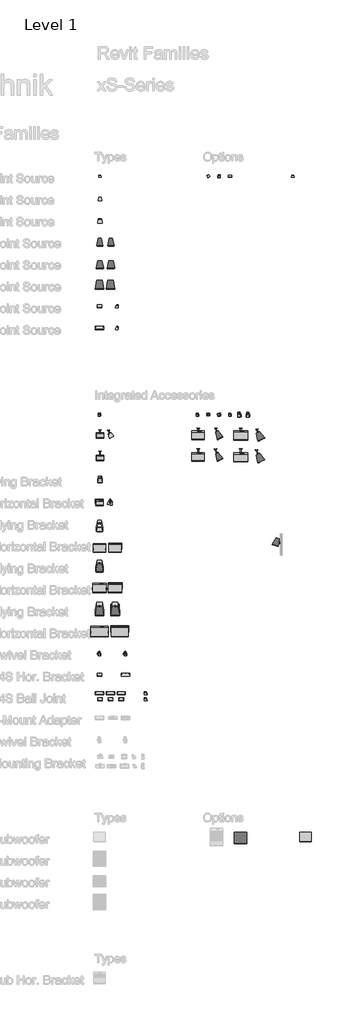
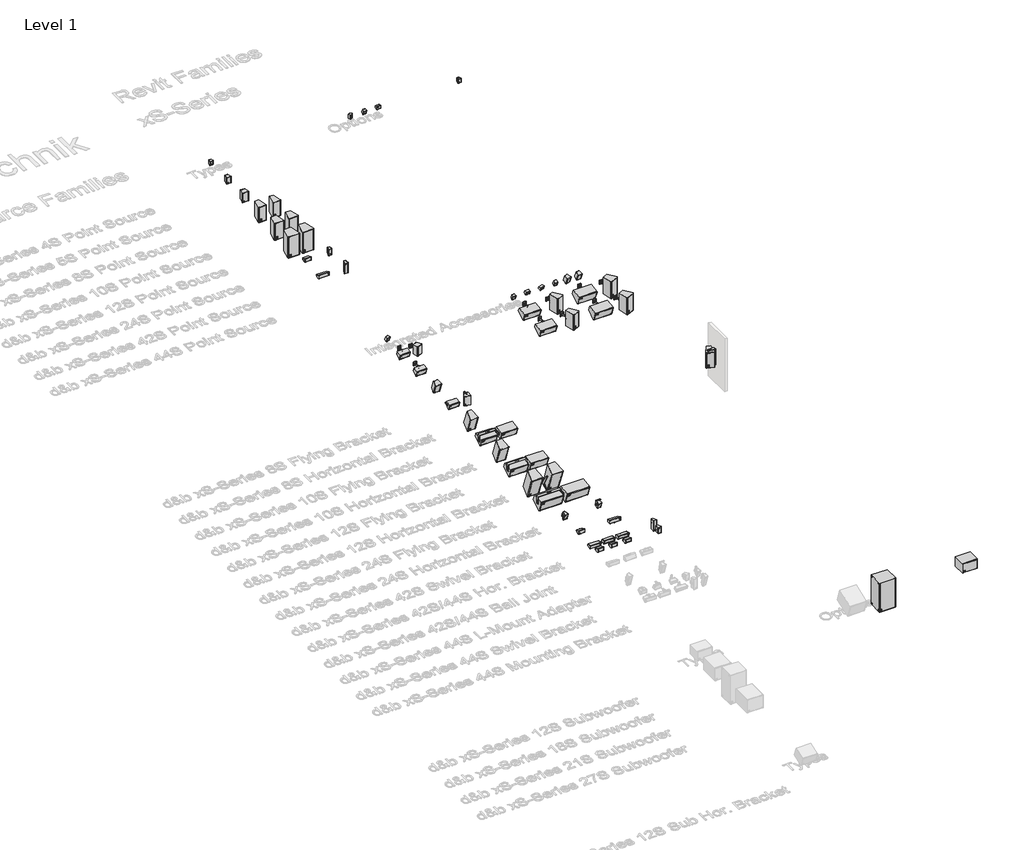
# One storey, part 2 of 55: 88 proxies.
"""IFC4 building model written with IfcOpenShell, lengths in millimetres."""

from ifc_helpers import new_model, si_unit, origin, place, context, project, spatial, transform, mapped, element, save
from components import proxy_10s_97c97104, proxy_12s_5242e5fb, proxy_24s_2d7f25b9, communication_devices_b0b455ff, communication_devices_60afc5a3, communication_devices_90d3ba4c, proxy_10s_79aa2483, proxy_10s_f54c0f71, proxy_10s_61797318, proxy_10s_125b0857, proxy_10s_horizontal_bracket_cd0d0b8b, proxy_10s_horizontal_bracket_ba3221e5, proxy_10s_horizontal_bracket_22db2dfa, proxy_12s_62eb7dd9, proxy_12s_bca86ed1, proxy_12s_57577739, proxy_12s_horizontal_bracket_cdcb445a, proxy_12s_horizontal_bracket_10b1cf9d, proxy_12s_sub_2a9edee9, proxy_21s_sub_79dd9c0d, proxy_24s_20e2b4ed, proxy_24s_46e50888, proxy_24s_horizontal_bracket_f759a5f4, proxy_24s_horizontal_bracket_bb8fb8dd, proxy_42s_4e967d7d, proxy_42s_64e661f3, proxy_42s_4a7ad22a, proxy_42s_0bac77b2, proxy_42s_swivel_bracket_58c8d276, proxy_42s_swivel_bracket_c39d419f, proxy_44s_32ae6d55, proxy_44s_43ee14fb, proxy_44s_2f7ddd4e, proxy_44s_975088ee, proxy_4s_3c42d015, proxy_4s_407254ed, proxy_4s_222f0351, proxy_4s_959aaee8, proxy_4s_9db8a935, proxy_4s_93626263, proxy_4s_2210255e, proxy_4s_803dc05e, proxy_5s_5bde0faa, proxy_5s_1bd1272a, proxy_5s_22a98614, proxy_8s_ff0c01f1, proxy_8s_2740bf52, proxy_8s_5a40f470, proxy_8s_6c60cdf4, proxy_8s_a2fef5f0, proxy_8s_horizontal_bracket_b8a0a3da, proxy_8s_horizontal_bracket_507ac9af, wall_mount_l_aa618b3f, wall_mount_l_5b5687d1, wall_mount_m_60f821db, wall_mount_m_07799ee1

model = new_model("IFC4")

# Units and contexts
model_context = context("Model", 3, world=origin())
ifc_project = project(units=[si_unit("LENGTHUNIT", "METRE", prefix="MILLI")], contexts=[model_context])

# Site, building, storey
site = spatial("IfcSite", under=ifc_project)
building = spatial("IfcBuilding", under=site)
storey = spatial("IfcBuildingStorey", under=building, Name="Level 1", Elevation=0.0)

# Proxies
placement = place(None, origin())
proxy_10s_shape = proxy_10s_97c97104(model_context)
element("IfcBuildingElementProxy", 1, Name="d&b xS-Series 10S Point Source : 10S-D", ObjectType="d&b xS-Series 10S Point Source : 10S-D", at=placement, inside=storey, context=model_context, shape_type="MappedRepresentation", body=[
    mapped(proxy_10s_shape, transform((-10731.9323727, 13546.5012301, 1000.0), x_axis=(1.0, 0.0, 0.0), y_axis=(0.0, 1.0, 0.0), z_axis=(0.0, 0.0, 1.0))),
])
proxy_12s_shape = proxy_12s_5242e5fb(model_context)
element("IfcBuildingElementProxy", 2, Name="d&b xS-Series 12S Point Source : 12S-D", ObjectType="d&b xS-Series 12S Point Source : 12S-D", at=placement, inside=storey, context=model_context, shape_type="MappedRepresentation", body=[
    mapped(proxy_12s_shape, transform((-10731.9323727, 12564.0992973, 1000.0), x_axis=(1.0, 0.0, 0.0), y_axis=(0.0, 1.0, 0.0), z_axis=(0.0, 0.0, 1.0))),
])
proxy_24s_shape = proxy_24s_2d7f25b9(model_context)
element("IfcBuildingElementProxy", 3, Name="d&b xS-Series 24S Point Source : 24S-D", ObjectType="d&b xS-Series 24S Point Source : 24S-D", at=placement, inside=storey, context=model_context, shape_type="MappedRepresentation", body=[
    mapped(proxy_24s_shape, transform((-10751.9323727, 11646.5012301, 1000.0), x_axis=(1.0, 0.0, 0.0), y_axis=(0.0, 1.0, 0.0), z_axis=(0.0, 0.0, 1.0))),
])
communication_devices_shape = communication_devices_b0b455ff(model_context)
element("IfcBuildingElementProxy", 4, Name="d&b xS-Series 24S Flying Bracket : 24S Flying Bracket", ObjectType="d&b xS-Series 24S Flying Bracket : 24S Flying Bracket", at=placement, inside=storey, context=model_context, shape_type="MappedRepresentation", body=[
    mapped(communication_devices_shape, transform((-10541.6434304, -3327.091255, 1000.0), x_axis=(0.0, -1.0000000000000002, 0.0), y_axis=(1.0000000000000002, 0.0, 0.0), z_axis=(0.0, 0.0, 1.0))),
])
communication_devices_2_shape = communication_devices_60afc5a3(model_context)
element("IfcBuildingElementProxy", 5, Name="d&b xS-Series 42S l 44S Horizontal Bracket : 42S l 44S Horizontal Bracket", ObjectType="d&b xS-Series 42S l 44S Horizontal Bracket : 42S l 44S Horizontal Bracket", at=placement, inside=storey, context=model_context, shape_type="MappedRepresentation", body=[
    mapped(communication_devices_2_shape, transform((-11261.6434304, -6292.2865951, 975.3410166), x_axis=(1.0, 0.0, 0.0), y_axis=(0.0, 0.17364817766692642, 0.9848077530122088), z_axis=(0.0, -0.9848077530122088, 0.17364817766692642))),
])
communication_devices_3_shape = communication_devices_90d3ba4c(model_context)
element("IfcBuildingElementProxy", 6, Name="d&b xS-Series 42S l 44S Horizontal Bracket : 42S l 44S Horizontal Bracket", ObjectType="d&b xS-Series 42S l 44S Horizontal Bracket : 42S l 44S Horizontal Bracket", at=placement, inside=storey, context=model_context, shape_type="MappedRepresentation", body=[
    mapped(communication_devices_3_shape, transform((-10061.6434304, -6291.7705506, 975.2500241), x_axis=(-1.0, 0.0, 0.0), y_axis=(0.0, -0.17364817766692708, -0.9848077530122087), z_axis=(0.0, -0.9848077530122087, 0.17364817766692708))),
])
element("IfcBuildingElementProxy", 7, Name="d&b xS-Series 10S Point Source : 10S", ObjectType="d&b xS-Series 10S Point Source : 10S", at=placement, inside=storey, context=model_context, shape_type="MappedRepresentation", body=[
    mapped(proxy_10s_shape, transform((-11241.6434304, 13546.5012301, 1000.0), x_axis=(1.0, 0.0, 0.0), y_axis=(0.0, 1.0, 0.0), z_axis=(0.0, 0.0, 1.0))),
])
proxy_10s_2_shape = proxy_10s_79aa2483(model_context)
element("IfcBuildingElementProxy", 8, Name="d&b xS-Series 10S Point Source : 10S", ObjectType="d&b xS-Series 10S Point Source : 10S", at=placement, inside=storey, context=model_context, shape_type="MappedRepresentation", body=[
    mapped(proxy_10s_2_shape, transform((-6705.1501038, 3650.1970686, 1000.0), x_axis=(1.0, 0.0, 0.0), y_axis=(0.0, 1.0, 0.0), z_axis=(0.0, 0.0, 1.0))),
])
proxy_10s_3_shape = proxy_10s_f54c0f71(model_context)
element("IfcBuildingElementProxy", 9, Name="d&b xS-Series 10S Point Source : 10S", ObjectType="d&b xS-Series 10S Point Source : 10S", at=placement, inside=storey, context=model_context, shape_type="MappedRepresentation", body=[
    mapped(proxy_10s_3_shape, transform((-5764.1712236, 3650.1970686, 1000.0), x_axis=(1.0, 0.0, 0.0), y_axis=(0.0, 1.0, 0.0), z_axis=(0.0, 0.0, 1.0))),
])
proxy_10s_4_shape = proxy_10s_61797318(model_context)
element("IfcBuildingElementProxy", 10, Name="d&b xS-Series 10S Point Source : 10S", ObjectType="d&b xS-Series 10S Point Source : 10S", at=placement, inside=storey, context=model_context, shape_type="MappedRepresentation", body=[
    mapped(proxy_10s_4_shape, transform((-11261.6434304, 446.5012301, 1000.0), x_axis=(1.0, 0.0, 0.0), y_axis=(0.0, 1.0, 0.0), z_axis=(0.0, 0.0, 1.0))),
])
element("IfcBuildingElementProxy", 11, Name="d&b xS-Series 10S Point Source : 10S", ObjectType="d&b xS-Series 10S Point Source : 10S", at=placement, inside=storey, context=model_context, shape_type="MappedRepresentation", body=[
    mapped(proxy_10s_2_shape, transform((-11261.6434304, -553.4987699, 1000.0), x_axis=(1.0, 0.0, 0.0), y_axis=(0.0, 1.0, 0.0), z_axis=(0.0, 0.0, 1.0))),
])
element("IfcBuildingElementProxy", 12, Name="d&b xS-Series 10S Point Source : 10S", ObjectType="d&b xS-Series 10S Point Source : 10S", at=placement, inside=storey, context=model_context, shape_type="MappedRepresentation", body=[
    mapped(proxy_10s_2_shape, transform((-10541.6434304, -553.4987699, 1000.0), x_axis=(1.0, 0.0, 0.0), y_axis=(0.0, 1.0, 0.0), z_axis=(0.0, 0.0, 1.0))),
])
element("IfcBuildingElementProxy", 13, Name="d&b xS-Series 10S Point Source : 10S", ObjectType="d&b xS-Series 10S Point Source : 10S", at=placement, inside=storey, context=model_context, shape_type="MappedRepresentation", body=[
    mapped(proxy_10s_2_shape, transform((-6705.1501038, 4650.1970686, 1000.0), x_axis=(1.0, 0.0, 0.0), y_axis=(0.0, 1.0, 0.0), z_axis=(0.0, 0.0, 1.0))),
])
element("IfcBuildingElementProxy", 14, Name="d&b xS-Series 10S Point Source : 10S", ObjectType="d&b xS-Series 10S Point Source : 10S", at=placement, inside=storey, context=model_context, shape_type="MappedRepresentation", body=[
    mapped(proxy_10s_3_shape, transform((-5764.1712236, 4650.1970686, 1000.0), x_axis=(1.0, 0.0, 0.0), y_axis=(0.0, 1.0, 0.0), z_axis=(0.0, 0.0, 1.0))),
])
proxy_10s_5_shape = proxy_10s_125b0857(model_context)
element("IfcBuildingElementProxy", 15, Name="d&b xS-Series 10S Point Source : 10S", ObjectType="d&b xS-Series 10S Point Source : 10S", at=placement, inside=storey, context=model_context, shape_type="MappedRepresentation", body=[
    mapped(proxy_10s_5_shape, transform((-3099.2298955, -283.4987699, 1000.0), x_axis=(1.0, 0.0, 0.0), y_axis=(0.0, 1.0, 0.0), z_axis=(0.0, 0.0, 1.0))),
])
proxy_10s_horizontal_bracket_shape = proxy_10s_horizontal_bracket_cd0d0b8b(model_context)
element("IfcBuildingElementProxy", 16, Name="d&b xS-Series 10S Horizontal Bracket : 10S Horizontal Bracket", ObjectType="d&b xS-Series 10S Horizontal Bracket : 10S Horizontal Bracket", at=placement, inside=storey, context=model_context, shape_type="MappedRepresentation", body=[
    mapped(proxy_10s_horizontal_bracket_shape, transform((-3208.2003886, -292.2487699, 1000.0), x_axis=(0.0, 0.0, -1.0), y_axis=(0.0, 1.0, 0.0), z_axis=(1.0, 0.0, 0.0))),
])
proxy_10s_horizontal_bracket_2_shape = proxy_10s_horizontal_bracket_ba3221e5(model_context)
element("IfcBuildingElementProxy", 17, Name="d&b xS-Series 10S Horizontal Bracket : 10S Horizontal Bracket", ObjectType="d&b xS-Series 10S Horizontal Bracket : 10S Horizontal Bracket", at=placement, inside=storey, context=model_context, shape_type="MappedRepresentation", body=[
    mapped(proxy_10s_horizontal_bracket_2_shape, transform((-11261.6434304, -553.4987699, 948.0), x_axis=(1.0, 0.0, 0.0), y_axis=(0.0, 1.0, 0.0), z_axis=(0.0, 0.0, 1.0))),
])
proxy_10s_horizontal_bracket_3_shape = proxy_10s_horizontal_bracket_22db2dfa(model_context)
element("IfcBuildingElementProxy", 18, Name="d&b xS-Series 10S Horizontal Bracket : 10S Horizontal Bracket", ObjectType="d&b xS-Series 10S Horizontal Bracket : 10S Horizontal Bracket", at=placement, inside=storey, context=model_context, shape_type="MappedRepresentation", body=[
    mapped(proxy_10s_horizontal_bracket_3_shape, transform((-10541.6434304, -553.4987699, 1000.0), x_axis=(1.0, 0.0, 0.0), y_axis=(0.0, 1.0, 0.0), z_axis=(0.0, 0.0, 1.0))),
])
element("IfcBuildingElementProxy", 19, Name="d&b xS-Series 12S Point Source : 12S", ObjectType="d&b xS-Series 12S Point Source : 12S", at=placement, inside=storey, context=model_context, shape_type="MappedRepresentation", body=[
    mapped(proxy_12s_shape, transform((-11241.6434304, 12564.0992973, 1000.0), x_axis=(1.0, 0.0, 0.0), y_axis=(0.0, 1.0, 0.0), z_axis=(0.0, 0.0, 1.0))),
])
proxy_12s_2_shape = proxy_12s_62eb7dd9(model_context)
element("IfcBuildingElementProxy", 20, Name="d&b xS-Series 12S Point Source : 12S", ObjectType="d&b xS-Series 12S Point Source : 12S", at=placement, inside=storey, context=model_context, shape_type="MappedRepresentation", body=[
    mapped(proxy_12s_2_shape, transform((-4741.6434304, 4686.5012301, 1000.0), x_axis=(1.0, 0.0, 0.0), y_axis=(0.0, 1.0, 0.0), z_axis=(0.0, 0.0, 1.0))),
])
proxy_12s_3_shape = proxy_12s_bca86ed1(model_context)
element("IfcBuildingElementProxy", 21, Name="d&b xS-Series 12S Point Source : 12S", ObjectType="d&b xS-Series 12S Point Source : 12S", at=placement, inside=storey, context=model_context, shape_type="MappedRepresentation", body=[
    mapped(proxy_12s_3_shape, transform((-3864.1712236, 4650.1970686, 1000.0), x_axis=(1.0, 0.0, 0.0), y_axis=(0.0, 1.0, 0.0), z_axis=(0.0, 0.0, 1.0))),
])
element("IfcBuildingElementProxy", 22, Name="d&b xS-Series 12S Point Source : 12S", ObjectType="d&b xS-Series 12S Point Source : 12S", at=placement, inside=storey, context=model_context, shape_type="MappedRepresentation", body=[
    mapped(proxy_12s_2_shape, transform((-4741.6434304, 3686.5012301, 1000.0), x_axis=(1.0, 0.0, 0.0), y_axis=(0.0, 1.0, 0.0), z_axis=(0.0, 0.0, 1.0))),
])
element("IfcBuildingElementProxy", 23, Name="d&b xS-Series 12S Point Source : 12S", ObjectType="d&b xS-Series 12S Point Source : 12S", at=placement, inside=storey, context=model_context, shape_type="MappedRepresentation", body=[
    mapped(proxy_12s_3_shape, transform((-3864.1712236, 3650.1970686, 1000.0), x_axis=(1.0, 0.0, 0.0), y_axis=(0.0, 1.0, 0.0), z_axis=(0.0, 0.0, 1.0))),
])
element("IfcBuildingElementProxy", 24, Name="d&b xS-Series 12S Point Source : 12S", ObjectType="d&b xS-Series 12S Point Source : 12S", at=placement, inside=storey, context=model_context, shape_type="MappedRepresentation", body=[
    mapped(proxy_12s_2_shape, transform((-11261.6434304, -2353.4987699, 1000.0), x_axis=(1.0, 0.0, 0.0), y_axis=(0.0, 1.0, 0.0), z_axis=(0.0, 0.0, 1.0))),
])
element("IfcBuildingElementProxy", 25, Name="d&b xS-Series 12S Point Source : 12S", ObjectType="d&b xS-Series 12S Point Source : 12S", at=placement, inside=storey, context=model_context, shape_type="MappedRepresentation", body=[
    mapped(proxy_12s_2_shape, transform((-10541.6434304, -2353.4987699, 1000.0), x_axis=(1.0, 0.0, 0.0), y_axis=(0.0, 1.0, 0.0), z_axis=(0.0, 0.0, 1.0))),
])
proxy_12s_4_shape = proxy_12s_57577739(model_context)
element("IfcBuildingElementProxy", 26, Name="d&b xS-Series 12S Point Source : 12S", ObjectType="d&b xS-Series 12S Point Source : 12S", at=placement, inside=storey, context=model_context, shape_type="MappedRepresentation", body=[
    mapped(proxy_12s_4_shape, transform((-11261.6434304, -1353.4987699, 1000.0), x_axis=(1.0, 0.0, 0.0), y_axis=(0.0, 1.0, 0.0), z_axis=(0.0, 0.0, 1.0))),
])
proxy_12s_horizontal_bracket_shape = proxy_12s_horizontal_bracket_cdcb445a(model_context)
element("IfcBuildingElementProxy", 27, Name="d&b xS-Series 12S Horizontal Bracket : 12S Horizontal Bracket", ObjectType="d&b xS-Series 12S Horizontal Bracket : 12S Horizontal Bracket", at=placement, inside=storey, context=model_context, shape_type="MappedRepresentation", body=[
    mapped(proxy_12s_horizontal_bracket_shape, transform((-11261.6434304, -2376.3112699, 948.046875), x_axis=(1.0, 0.0, 0.0), y_axis=(0.0, 1.0, 0.0), z_axis=(0.0, 0.0, 1.0))),
])
proxy_12s_horizontal_bracket_2_shape = proxy_12s_horizontal_bracket_10b1cf9d(model_context)
element("IfcBuildingElementProxy", 28, Name="d&b xS-Series 12S Horizontal Bracket : 12S Horizontal Bracket", ObjectType="d&b xS-Series 12S Horizontal Bracket : 12S Horizontal Bracket", at=placement, inside=storey, context=model_context, shape_type="MappedRepresentation", body=[
    mapped(proxy_12s_horizontal_bracket_2_shape, transform((-10541.6434304, -2376.1550199, 1000.0), x_axis=(1.0, 0.0, 0.0), y_axis=(0.0, 1.0, 0.0), z_axis=(0.0, 0.0, 1.0))),
])
proxy_12s_sub_shape = proxy_12s_sub_2a9edee9(model_context)
element("IfcBuildingElementProxy", 29, Name="d&b xS-Series 12S Subwoofer : 12S Sub", ObjectType="d&b xS-Series 12S Subwoofer : 12S Sub", at=placement, inside=storey, context=model_context, shape_type="MappedRepresentation", body=[
    mapped(proxy_12s_sub_shape, transform((-1754.4666248, -13853.4987699, 1000.0), x_axis=(1.0, 0.0, 0.0), y_axis=(0.0, 1.0, 0.0), z_axis=(0.0, 0.0, 1.0))),
])
proxy_21s_sub_shape = proxy_21s_sub_79dd9c0d(model_context)
element("IfcBuildingElementProxy", 30, Name="d&b xS-Series 21S Subwoofer : 21S Sub", ObjectType="d&b xS-Series 21S Subwoofer : 21S Sub", at=placement, inside=storey, context=model_context, shape_type="MappedRepresentation", body=[
    mapped(proxy_21s_sub_shape, transform((-4754.4666248, -13853.4987699, 1000.0), x_axis=(1.0, 0.0, 0.0), y_axis=(0.0, 1.0, 0.0), z_axis=(0.0, 0.0, 1.0))),
])
element("IfcBuildingElementProxy", 31, Name="d&b xS-Series 24S Point Source : 24S", ObjectType="d&b xS-Series 24S Point Source : 24S", at=placement, inside=storey, context=model_context, shape_type="MappedRepresentation", body=[
    mapped(proxy_24s_shape, transform((-11261.6434304, 11646.5012301, 1000.0), x_axis=(1.0, 0.0, 0.0), y_axis=(0.0, 1.0, 0.0), z_axis=(0.0, 0.0, 1.0))),
])
proxy_24s_2_shape = proxy_24s_20e2b4ed(model_context)
element("IfcBuildingElementProxy", 32, Name="d&b xS-Series 24S Point Source : 24S", ObjectType="d&b xS-Series 24S Point Source : 24S", at=placement, inside=storey, context=model_context, shape_type="MappedRepresentation", body=[
    mapped(proxy_24s_2_shape, transform((-11261.6434304, -3353.4987699, 1000.0), x_axis=(1.0, 0.0, 0.0), y_axis=(0.0, 1.0, 0.0), z_axis=(0.0, 0.0, 1.0))),
])
element("IfcBuildingElementProxy", 33, Name="d&b xS-Series 24S Point Source : 24S", ObjectType="d&b xS-Series 24S Point Source : 24S", at=placement, inside=storey, context=model_context, shape_type="MappedRepresentation", body=[
    mapped(proxy_24s_2_shape, transform((-10541.6434304, -3353.4987699, 1000.0), x_axis=(1.0, 0.0, 0.0), y_axis=(0.0, 1.0, 0.0), z_axis=(0.0, 0.0, 1.0))),
])
proxy_24s_3_shape = proxy_24s_46e50888(model_context)
element("IfcBuildingElementProxy", 34, Name="d&b xS-Series 24S Point Source : 24S", ObjectType="d&b xS-Series 24S Point Source : 24S", at=placement, inside=storey, context=model_context, shape_type="MappedRepresentation", body=[
    mapped(proxy_24s_3_shape, transform((-11261.6434304, -4353.4987699, 1000.0), x_axis=(1.0, 0.0, 0.0), y_axis=(0.0, 1.0, 0.0), z_axis=(0.0, 0.0, 1.0))),
])
element("IfcBuildingElementProxy", 35, Name="d&b xS-Series 24S Point Source : 24S", ObjectType="d&b xS-Series 24S Point Source : 24S", at=placement, inside=storey, context=model_context, shape_type="MappedRepresentation", body=[
    mapped(proxy_24s_3_shape, transform((-10324.1459106, -4353.4987699, 1000.0), x_axis=(1.0, 0.0, 0.0), y_axis=(0.0, 1.0, 0.0), z_axis=(0.0, 0.0, 1.0))),
])
proxy_24s_horizontal_bracket_shape = proxy_24s_horizontal_bracket_f759a5f4(model_context)
element("IfcBuildingElementProxy", 36, Name="d&b xS-Series 24S Horizontal Bracket : 24S Horizontal Bracket", ObjectType="d&b xS-Series 24S Horizontal Bracket : 24S Horizontal Bracket", at=placement, inside=storey, context=model_context, shape_type="MappedRepresentation", body=[
    mapped(proxy_24s_horizontal_bracket_shape, transform((-11261.6434304, -4376.3112699, 948.046875), x_axis=(1.0, 0.0, 0.0), y_axis=(0.0, 1.0, 0.0), z_axis=(0.0, 0.0, 1.0))),
])
proxy_24s_horizontal_bracket_2_shape = proxy_24s_horizontal_bracket_bb8fb8dd(model_context)
element("IfcBuildingElementProxy", 37, Name="d&b xS-Series 24S Horizontal Bracket : 24S Horizontal Bracket", ObjectType="d&b xS-Series 24S Horizontal Bracket : 24S Horizontal Bracket", at=placement, inside=storey, context=model_context, shape_type="MappedRepresentation", body=[
    mapped(proxy_24s_horizontal_bracket_2_shape, transform((-10324.1459106, -4376.3112699, 1000.0), x_axis=(1.0, 0.0, 0.0), y_axis=(0.0, 1.0, 0.0), z_axis=(0.0, 0.0, 1.0))),
])
proxy_42s_shape = proxy_42s_4e967d7d(model_context)
element("IfcBuildingElementProxy", 38, Name="d&b xS-Series 42S Point Source : 42S", ObjectType="d&b xS-Series 42S Point Source : 42S", at=placement, inside=storey, context=model_context, shape_type="MappedRepresentation", body=[
    mapped(proxy_42s_shape, transform((-11261.6434304, 10646.5012301, 1000.0), x_axis=(1.0, 0.0, 0.0), y_axis=(0.0, 1.0, 0.0), z_axis=(0.0, 0.0, 1.0))),
])
element("IfcBuildingElementProxy", 39, Name="d&b xS-Series 42S Point Source : 42S", ObjectType="d&b xS-Series 42S Point Source : 42S", at=placement, inside=storey, context=model_context, shape_type="MappedRepresentation", body=[
    mapped(proxy_42s_shape, transform((-10254.7485636, -7495.7790499, 1000.0), x_axis=(1.0, 0.0, 0.0), y_axis=(0.0, 1.0, 0.0), z_axis=(0.0, 0.0, 1.0))),
])
proxy_42s_2_shape = proxy_42s_64e661f3(model_context)
element("IfcBuildingElementProxy", 40, Name="d&b xS-Series 42S Point Source : 42S", ObjectType="d&b xS-Series 42S Point Source : 42S", at=placement, inside=storey, context=model_context, shape_type="MappedRepresentation", body=[
    mapped(proxy_42s_2_shape, transform((-11261.6434304, -5385.9467881, 1000.0), x_axis=(1.0, 0.0, 0.0), y_axis=(0.0, 1.0, 0.0), z_axis=(0.0, 0.0, 1.0))),
])
element("IfcBuildingElementProxy", 41, Name="d&b xS-Series 42S Point Source : 42S", ObjectType="d&b xS-Series 42S Point Source : 42S", at=placement, inside=storey, context=model_context, shape_type="MappedRepresentation", body=[
    mapped(proxy_42s_2_shape, transform((-10061.6434304, -5385.9467881, 1000.0), x_axis=(1.0, 0.0, 0.0), y_axis=(0.0, 1.0, 0.0), z_axis=(0.0, 0.0, 1.0))),
])
element("IfcBuildingElementProxy", 42, Name="d&b xS-Series 42S Point Source : 42S", ObjectType="d&b xS-Series 42S Point Source : 42S", at=placement, inside=storey, context=model_context, shape_type="MappedRepresentation", body=[
    mapped(proxy_42s_shape, transform((-11261.6434304, -6360.8497124, 1000.0), x_axis=(1.0, 0.0, 0.0), y_axis=(0.0, 1.0, 0.0), z_axis=(0.0, 0.0, 1.0))),
])
proxy_42s_3_shape = proxy_42s_4a7ad22a(model_context)
element("IfcBuildingElementProxy", 43, Name="d&b xS-Series 42S Point Source : 42S", ObjectType="d&b xS-Series 42S Point Source : 42S", at=placement, inside=storey, context=model_context, shape_type="MappedRepresentation", body=[
    mapped(proxy_42s_3_shape, transform((-10461.6434304, 10646.5012301, 1000.0), x_axis=(1.0, 0.0, 0.0), y_axis=(0.0, 1.0, 0.0), z_axis=(0.0, 0.0, 1.0))),
])
element("IfcBuildingElementProxy", 44, Name="d&b xS-Series 42S Point Source : 42S", ObjectType="d&b xS-Series 42S Point Source : 42S", at=placement, inside=storey, context=model_context, shape_type="MappedRepresentation", body=[
    mapped(proxy_42s_shape, transform((-11242.1214201, -7495.7790499, 1000.0), x_axis=(1.0, 0.0, 0.0), y_axis=(0.0, 1.0, 0.0), z_axis=(0.0, 0.0, 1.0))),
])
element("IfcBuildingElementProxy", 45, Name="d&b xS-Series 42S Point Source : 42S", ObjectType="d&b xS-Series 42S Point Source : 42S", at=placement, inside=storey, context=model_context, shape_type="MappedRepresentation", body=[
    mapped(proxy_42s_shape, transform((-10757.4386007, -7495.7790499, 1000.0), x_axis=(1.0, 0.0, 0.0), y_axis=(0.0, 1.0, 0.0), z_axis=(0.0, 0.0, 1.0))),
])
proxy_42s_4_shape = proxy_42s_0bac77b2(model_context)
element("IfcBuildingElementProxy", 46, Name="d&b xS-Series 42S Point Source : 42S", ObjectType="d&b xS-Series 42S Point Source : 42S", at=placement, inside=storey, context=model_context, shape_type="MappedRepresentation", body=[
    mapped(proxy_42s_4_shape, transform((-9123.1892897, -7495.7790499, 1000.0), x_axis=(1.0, 0.0, 0.0), y_axis=(0.0, 1.0, 0.0), z_axis=(0.0, 0.0, 1.0))),
])
proxy_42s_swivel_bracket_shape = proxy_42s_swivel_bracket_58c8d276(model_context)
element("IfcBuildingElementProxy", 47, Name="d&b xS-Series 42S Swivel Bracket : 42S Swivel Bracket", ObjectType="d&b xS-Series 42S Swivel Bracket : 42S Swivel Bracket", at=placement, inside=storey, context=model_context, shape_type="MappedRepresentation", body=[
    mapped(proxy_42s_swivel_bracket_shape, transform((-11261.6434304, -5393.7592881, 1000.0), x_axis=(0.0, 1.0000000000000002, 0.0), y_axis=(-1.0000000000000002, 0.0, 0.0), z_axis=(0.0, 0.0, 1.0))),
])
proxy_42s_swivel_bracket_2_shape = proxy_42s_swivel_bracket_c39d419f(model_context)
element("IfcBuildingElementProxy", 48, Name="d&b xS-Series 42S Swivel Bracket : 42S Swivel Bracket", ObjectType="d&b xS-Series 42S Swivel Bracket : 42S Swivel Bracket", at=placement, inside=storey, context=model_context, shape_type="MappedRepresentation", body=[
    mapped(proxy_42s_swivel_bracket_2_shape, transform((-10061.6434304, -5393.7592881, 1000.0), x_axis=(0.0, 1.0000000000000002, 0.0), y_axis=(-1.0000000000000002, 0.0, 0.0), z_axis=(0.0, 0.0, 1.0))),
])
proxy_44s_shape = proxy_44s_32ae6d55(model_context)
element("IfcBuildingElementProxy", 49, Name="d&b xS-Series 44S Point Source : 44S", ObjectType="d&b xS-Series 44S Point Source : 44S", at=placement, inside=storey, context=model_context, shape_type="MappedRepresentation", body=[
    mapped(proxy_44s_shape, transform((-11261.6434304, 9646.5012301, 1000.0), x_axis=(1.0, 0.0, 0.0), y_axis=(0.0, 1.0, 0.0), z_axis=(0.0, 0.0, 1.0))),
])
element("IfcBuildingElementProxy", 50, Name="d&b xS-Series 44S Point Source : 44S", ObjectType="d&b xS-Series 44S Point Source : 44S", at=placement, inside=storey, context=model_context, shape_type="MappedRepresentation", body=[
    mapped(proxy_44s_shape, transform((-10061.6434304, -6360.8497124, 1000.0), x_axis=(1.0, 0.0, 0.0), y_axis=(0.0, 1.0, 0.0), z_axis=(0.0, 0.0, 1.0))),
])
proxy_44s_2_shape = proxy_44s_43ee14fb(model_context)
element("IfcBuildingElementProxy", 51, Name="d&b xS-Series 44S Point Source : 44S", ObjectType="d&b xS-Series 44S Point Source : 44S", at=placement, inside=storey, context=model_context, shape_type="MappedRepresentation", body=[
    mapped(proxy_44s_2_shape, transform((-11260.1286378, -7209.5212249, 1000.0), x_axis=(1.0, 0.0, 0.0), y_axis=(0.0, 1.0, 0.0), z_axis=(0.0, 0.0, 1.0))),
])
proxy_44s_3_shape = proxy_44s_2f7ddd4e(model_context)
element("IfcBuildingElementProxy", 52, Name="d&b xS-Series 44S Point Source : 44S", ObjectType="d&b xS-Series 44S Point Source : 44S", at=placement, inside=storey, context=model_context, shape_type="MappedRepresentation", body=[
    mapped(proxy_44s_3_shape, transform((-9126.5784533, -7211.6386114, 1000.0), x_axis=(1.0, 0.0, 0.0), y_axis=(0.0, 1.0, 0.0), z_axis=(0.0, 0.0, 1.0))),
])
proxy_44s_4_shape = proxy_44s_975088ee(model_context)
element("IfcBuildingElementProxy", 53, Name="d&b xS-Series 44S Point Source : 44S", ObjectType="d&b xS-Series 44S Point Source : 44S", at=placement, inside=storey, context=model_context, shape_type="MappedRepresentation", body=[
    mapped(proxy_44s_4_shape, transform((-10461.6434304, 9646.5012301, 1000.0), x_axis=(1.0, 0.0, 0.0), y_axis=(0.0, 1.0, 0.0), z_axis=(0.0, 0.0, 1.0))),
])
element("IfcBuildingElementProxy", 54, Name="d&b xS-Series 44S Point Source : 44S", ObjectType="d&b xS-Series 44S Point Source : 44S", at=placement, inside=storey, context=model_context, shape_type="MappedRepresentation", body=[
    mapped(proxy_44s_2_shape, transform((-10757.4386007, -7209.5212249, 1000.0), x_axis=(1.0, 0.0, 0.0), y_axis=(0.0, 1.0, 0.0), z_axis=(0.0, 0.0, 1.0))),
])
element("IfcBuildingElementProxy", 55, Name="d&b xS-Series 44S Point Source : 44S", ObjectType="d&b xS-Series 44S Point Source : 44S", at=placement, inside=storey, context=model_context, shape_type="MappedRepresentation", body=[
    mapped(proxy_44s_2_shape, transform((-10254.7485636, -7209.5212249, 1000.0), x_axis=(1.0, 0.0, 0.0), y_axis=(0.0, 1.0, 0.0), z_axis=(0.0, 0.0, 1.0))),
])
proxy_4s_shape = proxy_4s_3c42d015(model_context)
element("IfcBuildingElementProxy", 56, Name="d&b xS-Series 4S Point Source : 4S", ObjectType="d&b xS-Series 4S Point Source : 4S", at=placement, inside=storey, context=model_context, shape_type="MappedRepresentation", body=[
    mapped(proxy_4s_shape, transform((-11241.6434304, 16646.5012301, 1000.0), x_axis=(1.0, 0.0, 0.0), y_axis=(0.0, 1.0, 0.0), z_axis=(0.0, 0.0, 1.0))),
])
proxy_4s_2_shape = proxy_4s_407254ed(model_context)
element("IfcBuildingElementProxy", 57, Name="d&b xS-Series 4S Point Source : 4S", ObjectType="d&b xS-Series 4S Point Source : 4S", at=placement, inside=storey, context=model_context, shape_type="MappedRepresentation", body=[
    mapped(proxy_4s_2_shape, transform((-6241.6434304, 16646.5012301, 1000.0), x_axis=(1.0, 0.0, 0.0), y_axis=(0.0, 1.0, 0.0), z_axis=(0.0, 0.0, 1.0))),
])
proxy_4s_3_shape = proxy_4s_222f0351(model_context)
element("IfcBuildingElementProxy", 58, Name="d&b xS-Series 4S Point Source : 4S", ObjectType="d&b xS-Series 4S Point Source : 4S", at=placement, inside=storey, context=model_context, shape_type="MappedRepresentation", body=[
    mapped(proxy_4s_3_shape, transform((-5241.6434304, 16646.5012301, 1000.0), x_axis=(1.0, 0.0, 0.0), y_axis=(0.0, 1.0, 0.0), z_axis=(0.0, 0.0, 1.0))),
])
proxy_4s_4_shape = proxy_4s_959aaee8(model_context)
element("IfcBuildingElementProxy", 59, Name="d&b xS-Series 4S Point Source : 4S", ObjectType="d&b xS-Series 4S Point Source : 4S", at=placement, inside=storey, context=model_context, shape_type="MappedRepresentation", body=[
    mapped(proxy_4s_4_shape, transform((-5741.6434304, 16646.5012301, 1000.0), x_axis=(1.0, 0.0, 0.0), y_axis=(0.0, 1.0, 0.0), z_axis=(0.0, 0.0, 1.0))),
])
element("IfcBuildingElementProxy", 60, Name="d&b xS-Series 4S Point Source : 4S", ObjectType="d&b xS-Series 4S Point Source : 4S", at=placement, inside=storey, context=model_context, shape_type="MappedRepresentation", body=[
    mapped(proxy_4s_shape, transform((-2341.6434304, 16646.5012301, 1000.0), x_axis=(1.0, 0.0, 0.0), y_axis=(0.0, 1.0, 0.0), z_axis=(0.0, 0.0, 1.0))),
])
proxy_4s_5_shape = proxy_4s_9db8a935(model_context)
element("IfcBuildingElementProxy", 61, Name="d&b xS-Series 4S Point Source : 4S", ObjectType="d&b xS-Series 4S Point Source : 4S", at=placement, inside=storey, context=model_context, shape_type="MappedRepresentation", body=[
    mapped(proxy_4s_5_shape, transform((-6741.6434304, 5646.5012301, 1000.0), x_axis=(1.0, 0.0, 0.0), y_axis=(0.0, 1.0, 0.0), z_axis=(0.0, 0.0, 1.0))),
])
proxy_4s_6_shape = proxy_4s_93626263(model_context)
element("IfcBuildingElementProxy", 62, Name="d&b xS-Series 4S Point Source : 4S", ObjectType="d&b xS-Series 4S Point Source : 4S", at=placement, inside=storey, context=model_context, shape_type="MappedRepresentation", body=[
    mapped(proxy_4s_6_shape, transform((-6241.6434304, 5646.5012301, 1000.0), x_axis=(1.0, 0.0, 0.0), y_axis=(0.0, 1.0, 0.0), z_axis=(0.0, 0.0, 1.0))),
])
proxy_4s_7_shape = proxy_4s_2210255e(model_context)
element("IfcBuildingElementProxy", 63, Name="d&b xS-Series 4S Point Source : 4S", ObjectType="d&b xS-Series 4S Point Source : 4S", at=placement, inside=storey, context=model_context, shape_type="MappedRepresentation", body=[
    mapped(proxy_4s_7_shape, transform((-5741.6434304, 5646.5012301, 1000.0), x_axis=(1.0, 0.0, 0.0), y_axis=(0.0, 1.0, 0.0), z_axis=(0.0, 0.0, 1.0))),
])
element("IfcBuildingElementProxy", 64, Name="d&b xS-Series 4S Point Source : 4S", ObjectType="d&b xS-Series 4S Point Source : 4S", at=placement, inside=storey, context=model_context, shape_type="MappedRepresentation", body=[
    mapped(proxy_4s_5_shape, transform((-5241.6434304, 5646.5012301, 1000.0), x_axis=(1.0, 0.0, 0.0), y_axis=(0.0, 1.0, 0.0), z_axis=(0.0, 0.0, 1.0))),
])
proxy_4s_8_shape = proxy_4s_803dc05e(model_context)
element("IfcBuildingElementProxy", 65, Name="d&b xS-Series 4S Point Source : 4S", ObjectType="d&b xS-Series 4S Point Source : 4S", at=placement, inside=storey, context=model_context, shape_type="MappedRepresentation", body=[
    mapped(proxy_4s_8_shape, transform((-11261.6434304, 5646.5012301, 1000.0), x_axis=(1.0, 0.0, 0.0), y_axis=(0.0, 1.0, 0.0), z_axis=(0.0, 0.0, 1.0))),
])
proxy_5s_shape = proxy_5s_5bde0faa(model_context)
element("IfcBuildingElementProxy", 66, Name="d&b xS-Series 5S Point Source : 5S", ObjectType="d&b xS-Series 5S Point Source : 5S", at=placement, inside=storey, context=model_context, shape_type="MappedRepresentation", body=[
    mapped(proxy_5s_shape, transform((-11241.6434304, 15595.5012301, 1000.0), x_axis=(1.0, 0.0, 0.0), y_axis=(0.0, 1.0, 0.0), z_axis=(0.0, 0.0, 1.0))),
])
proxy_5s_2_shape = proxy_5s_1bd1272a(model_context)
element("IfcBuildingElementProxy", 67, Name="d&b xS-Series 5S Point Source : 5S", ObjectType="d&b xS-Series 5S Point Source : 5S", at=placement, inside=storey, context=model_context, shape_type="MappedRepresentation", body=[
    mapped(proxy_5s_2_shape, transform((-4817.989509, 5646.5012301, 1000.0), x_axis=(1.0, 0.0, 0.0), y_axis=(0.0, 1.0, 0.0), z_axis=(0.0, 0.0, 1.0))),
])
proxy_5s_3_shape = proxy_5s_22a98614(model_context)
element("IfcBuildingElementProxy", 68, Name="d&b xS-Series 5S Point Source : 5S", ObjectType="d&b xS-Series 5S Point Source : 5S", at=placement, inside=storey, context=model_context, shape_type="MappedRepresentation", body=[
    mapped(proxy_5s_3_shape, transform((-4416.9632934, 5646.5012301, 1000.0), x_axis=(1.0, 0.0, 0.0), y_axis=(0.0, 1.0, 0.0), z_axis=(0.0, 0.0, 1.0))),
])
proxy_8s_shape = proxy_8s_ff0c01f1(model_context)
element("IfcBuildingElementProxy", 69, Name="d&b xS-Series 8S Point Source : 8S", ObjectType="d&b xS-Series 8S Point Source : 8S", at=placement, inside=storey, context=model_context, shape_type="MappedRepresentation", body=[
    mapped(proxy_8s_shape, transform((-11241.6434304, 14574.8804066, 1000.0), x_axis=(1.0, 0.0, 0.0), y_axis=(0.0, 1.0, 0.0), z_axis=(0.0, 0.0, 1.0))),
])
proxy_8s_2_shape = proxy_8s_2740bf52(model_context)
element("IfcBuildingElementProxy", 70, Name="d&b xS-Series 8S Point Source : 8S", ObjectType="d&b xS-Series 8S Point Source : 8S", at=placement, inside=storey, context=model_context, shape_type="MappedRepresentation", body=[
    mapped(proxy_8s_2_shape, transform((-10741.6434304, 4686.5012301, 1000.0), x_axis=(1.0, 0.0, 0.0), y_axis=(0.0, 1.0, 0.0), z_axis=(0.0, 0.0, 1.0))),
])
proxy_8s_3_shape = proxy_8s_5a40f470(model_context)
element("IfcBuildingElementProxy", 71, Name="d&b xS-Series 8S Point Source : 8S", ObjectType="d&b xS-Series 8S Point Source : 8S", at=placement, inside=storey, context=model_context, shape_type="MappedRepresentation", body=[
    mapped(proxy_8s_3_shape, transform((-11267.30045, 1575.9439695, 1000.0), x_axis=(1.0, 0.0, 0.0), y_axis=(0.0, 1.0, 0.0), z_axis=(0.0, 0.0, 1.0))),
])
proxy_8s_4_shape = proxy_8s_6c60cdf4(model_context)
element("IfcBuildingElementProxy", 72, Name="d&b xS-Series 8S Point Source : 8S", ObjectType="d&b xS-Series 8S Point Source : 8S", at=placement, inside=storey, context=model_context, shape_type="MappedRepresentation", body=[
    mapped(proxy_8s_4_shape, transform((-11241.6434304, 2646.5668501, 1000.0), x_axis=(1.0, 0.0, 0.0), y_axis=(0.0, 1.0, 0.0), z_axis=(0.0, 0.0, 1.0))),
])
proxy_8s_5_shape = proxy_8s_a2fef5f0(model_context)
element("IfcBuildingElementProxy", 73, Name="d&b xS-Series 8S Point Source : 8S", ObjectType="d&b xS-Series 8S Point Source : 8S", at=placement, inside=storey, context=model_context, shape_type="MappedRepresentation", body=[
    mapped(proxy_8s_5_shape, transform((-10767.30045, 1575.9439695, 1000.0), x_axis=(1.0, 0.0, 0.0), y_axis=(0.0, 1.0, 0.0), z_axis=(0.0, 0.0, 1.0))),
])
element("IfcBuildingElementProxy", 74, Name="d&b xS-Series 8S Point Source : 8S", ObjectType="d&b xS-Series 8S Point Source : 8S", at=placement, inside=storey, context=model_context, shape_type="MappedRepresentation", body=[
    mapped(proxy_8s_3_shape, transform((-11241.6434304, 3650.1970686, 1000.0), x_axis=(1.0, 0.0, 0.0), y_axis=(0.0, 1.0, 0.0), z_axis=(0.0, 0.0, 1.0))),
])
element("IfcBuildingElementProxy", 75, Name="d&b xS-Series 8S Point Source : 8S", ObjectType="d&b xS-Series 8S Point Source : 8S", at=placement, inside=storey, context=model_context, shape_type="MappedRepresentation", body=[
    mapped(proxy_8s_3_shape, transform((-11241.6434304, 4686.5012301, 1000.0), x_axis=(1.0, 0.0, 0.0), y_axis=(0.0, 1.0, 0.0), z_axis=(0.0, 0.0, 1.0))),
])
proxy_8s_horizontal_bracket_shape = proxy_8s_horizontal_bracket_b8a0a3da(model_context)
element("IfcBuildingElementProxy", 76, Name="d&b xS-Series 8S Horizontal Bracket : 8S Horizontal Bracket", ObjectType="d&b xS-Series 8S Horizontal Bracket : 8S Horizontal Bracket", at=placement, inside=storey, context=model_context, shape_type="MappedRepresentation", body=[
    mapped(proxy_8s_horizontal_bracket_shape, transform((-11267.30045, 1575.9439695, 1000.0), x_axis=(-1.0, 0.0, 0.0), y_axis=(0.0, -1.0, 0.0), z_axis=(0.0, 0.0, 1.0))),
])
proxy_8s_horizontal_bracket_2_shape = proxy_8s_horizontal_bracket_507ac9af(model_context)
element("IfcBuildingElementProxy", 77, Name="d&b xS-Series 8S Horizontal Bracket : 8S Horizontal Bracket", ObjectType="d&b xS-Series 8S Horizontal Bracket : 8S Horizontal Bracket", at=placement, inside=storey, context=model_context, shape_type="MappedRepresentation", body=[
    mapped(proxy_8s_horizontal_bracket_2_shape, transform((-10767.30045, 1575.9439695, 1000.0), x_axis=(-1.0, 0.0, 0.0), y_axis=(0.0, -1.0, 0.0), z_axis=(0.0, 0.0, 1.0))),
])
wall_mount_l_shape = wall_mount_l_aa618b3f(model_context)
element("IfcBuildingElementProxy", 78, Name="d&b xS-Series Wall Mount L : Wall Mount L", ObjectType="d&b xS-Series Wall Mount L : Wall Mount L", at=placement, inside=storey, context=model_context, shape_type="MappedRepresentation", body=[
    mapped(wall_mount_l_shape, transform((-11241.0184304, 3746.5155622, 1035.0570647), x_axis=(1.0, 0.0, 0.0), y_axis=(0.0, 0.34202014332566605, -0.9396926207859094), z_axis=(0.0, 0.9396926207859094, 0.34202014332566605))),
])
element("IfcBuildingElementProxy", 79, Name="d&b xS-Series Wall Mount L : Wall Mount L", ObjectType="d&b xS-Series Wall Mount L : Wall Mount L", at=placement, inside=storey, context=model_context, shape_type="MappedRepresentation", body=[
    mapped(wall_mount_l_shape, transform((-6704.6032288, 3864.4261413, 1077.9730058), x_axis=(1.0, 0.0, 0.0), y_axis=(0.0, 0.3420201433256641, -0.9396926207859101), z_axis=(0.0, 0.9396926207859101, 0.3420201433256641))),
])
element("IfcBuildingElementProxy", 80, Name="d&b xS-Series Wall Mount L : Wall Mount L", ObjectType="d&b xS-Series Wall Mount L : Wall Mount L", at=placement, inside=storey, context=model_context, shape_type="MappedRepresentation", body=[
    mapped(wall_mount_l_shape, transform((-4741.0965554, 3857.9951334, 1062.4186762), x_axis=(1.0, 0.0, 0.0), y_axis=(0.0, 0.3420201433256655, -0.9396926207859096), z_axis=(0.0, 0.9396926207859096, 0.3420201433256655))),
])
wall_mount_l_2_shape = wall_mount_l_5b5687d1(model_context)
element("IfcBuildingElementProxy", 81, Name="d&b xS-Series Wall Mount L : Wall Mount L", ObjectType="d&b xS-Series Wall Mount L : Wall Mount L", at=placement, inside=storey, context=model_context, shape_type="MappedRepresentation", body=[
    mapped(wall_mount_l_2_shape, transform((-5838.1294194, 3861.7787487, 1000.46875), x_axis=(0.9063077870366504, 0.4226182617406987, 0.0), y_axis=(0.0, 0.0, -1.0000000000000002), z_axis=(-0.4226182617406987, 0.9063077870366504, 0.0))),
])
element("IfcBuildingElementProxy", 82, Name="d&b xS-Series Wall Mount L : Wall Mount L", ObjectType="d&b xS-Series Wall Mount L : Wall Mount L", at=placement, inside=storey, context=model_context, shape_type="MappedRepresentation", body=[
    mapped(wall_mount_l_2_shape, transform((-3941.3286043, 3815.5844613, 1000.46875), x_axis=(0.9063077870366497, 0.4226182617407, 0.0), y_axis=(0.0, 0.0, -1.0), z_axis=(-0.4226182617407, 0.9063077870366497, 0.0))),
])
wall_mount_m_shape = wall_mount_m_60f821db(model_context)
element("IfcBuildingElementProxy", 83, Name="d&b xS-Series Wall Mount M : Wall Mount M", ObjectType="d&b xS-Series Wall Mount M : Wall Mount M", at=placement, inside=storey, context=model_context, shape_type="MappedRepresentation", body=[
    mapped(wall_mount_m_shape, transform((-6704.6032288, 4864.4261413, 1077.9730058), x_axis=(1.0, 0.0, 0.0), y_axis=(0.0, 0.3420201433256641, -0.9396926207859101), z_axis=(0.0, 0.9396926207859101, 0.3420201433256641))),
])
element("IfcBuildingElementProxy", 84, Name="d&b xS-Series Wall Mount M : Wall Mount M", ObjectType="d&b xS-Series Wall Mount M : Wall Mount M", at=placement, inside=storey, context=model_context, shape_type="MappedRepresentation", body=[
    mapped(wall_mount_m_shape, transform((-4741.0965554, 4857.9951334, 1062.4186762), x_axis=(1.0, 0.0, 0.0), y_axis=(0.0, 0.3420201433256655, -0.9396926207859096), z_axis=(0.0, 0.9396926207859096, 0.3420201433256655))),
])
element("IfcBuildingElementProxy", 85, Name="d&b xS-Series Wall Mount M : Wall Mount M", ObjectType="d&b xS-Series Wall Mount M : Wall Mount M", at=placement, inside=storey, context=model_context, shape_type="MappedRepresentation", body=[
    mapped(wall_mount_m_shape, transform((-11241.0184304, 4782.8197237, 1035.0570647), x_axis=(1.0, 0.0, 0.0), y_axis=(0.0, 0.34202014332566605, -0.9396926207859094), z_axis=(0.0, 0.9396926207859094, 0.34202014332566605))),
])
wall_mount_m_2_shape = wall_mount_m_07799ee1(model_context)
element("IfcBuildingElementProxy", 86, Name="d&b xS-Series Wall Mount M : Wall Mount M", ObjectType="d&b xS-Series Wall Mount M : Wall Mount M", at=placement, inside=storey, context=model_context, shape_type="MappedRepresentation", body=[
    mapped(wall_mount_m_2_shape, transform((-10784.9519261, 4779.4023836, 1000.46875), x_axis=(0.9063077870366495, 0.4226182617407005, 0.0), y_axis=(0.0, 0.0, -1.0), z_axis=(-0.4226182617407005, 0.9063077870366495, 0.0))),
])
element("IfcBuildingElementProxy", 87, Name="d&b xS-Series Wall Mount M : Wall Mount M", ObjectType="d&b xS-Series Wall Mount M : Wall Mount M", at=placement, inside=storey, context=model_context, shape_type="MappedRepresentation", body=[
    mapped(wall_mount_m_2_shape, transform((-3941.3286043, 4815.5844613, 1000.46875), x_axis=(0.9063077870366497, 0.4226182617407, 0.0), y_axis=(0.0, 0.0, -1.0), z_axis=(-0.4226182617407, 0.9063077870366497, 0.0))),
])
element("IfcBuildingElementProxy", 88, Name="d&b xS-Series Wall Mount M : Wall Mount M", ObjectType="d&b xS-Series Wall Mount M : Wall Mount M", at=placement, inside=storey, context=model_context, shape_type="MappedRepresentation", body=[
    mapped(wall_mount_m_2_shape, transform((-5838.1294194, 4861.7787487, 1000.46875), x_axis=(0.9063077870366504, 0.4226182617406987, 0.0), y_axis=(0.0, 0.0, -1.0000000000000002), z_axis=(-0.4226182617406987, 0.9063077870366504, 0.0))),
])

save(model, "model.ifc")
